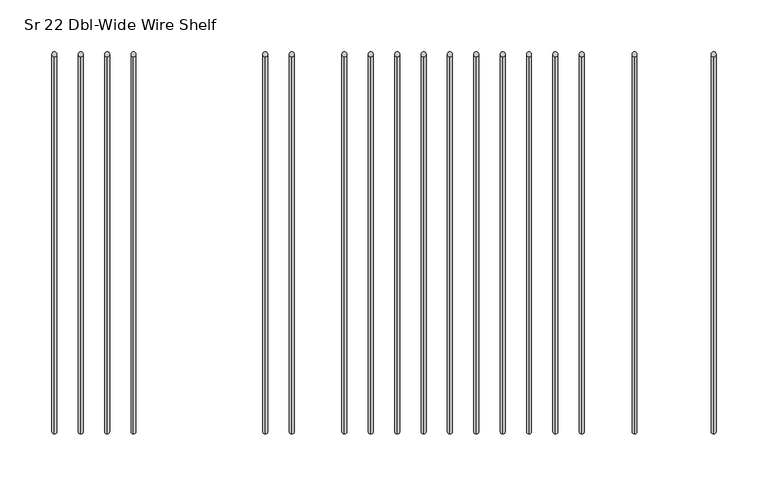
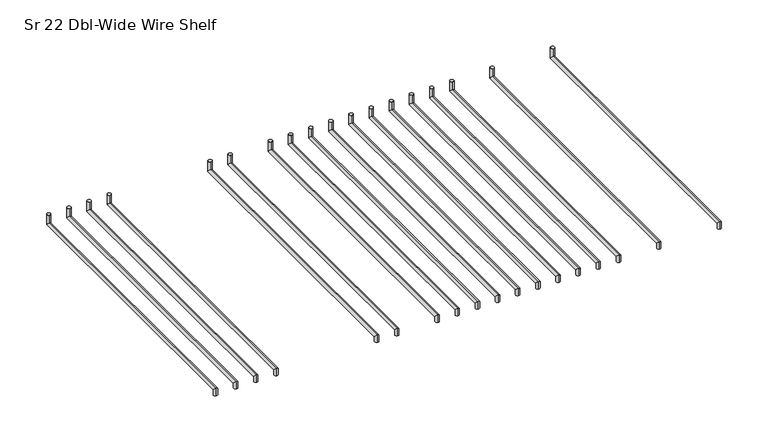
"""IFC4 building model written with IfcOpenShell, lengths in millimetres: furniture geometry, HermanMiller_Carts_CT521_CartShelf : Sr 22 Dbl-Wide Wire Shelf."""

from ifc_helpers import new_model, si_unit, frame, origin, place, context, project, spatial, circle_curve, ellipse_curve, source, transform, mapped, element, save
from ifc_brep_helpers import plane_surface, cylinder_surface, advanced_brep


def sr_22_dbl_wide_wire_shelf_7f391bb4(model_context):
    return source(origin(), model_context, "Body", "AdvancedBrep", [
        advanced_brep(
        [(358.5223083, -206.38135, 2148.4971), (358.5223083, -211.14385, 2148.4971), (358.5223083, -206.38135, 2153.2596), (358.5223083, -211.14385, 2158.0221), (358.5223083, 157.2983379, 2153.2596), (358.5223083, 152.5358379, 2158.0221), (358.5223083, 157.2983379, 2168.5377), (358.5223083, 152.5358379, 2168.5377)],
        [
            (0, 1, circle_curve(frame((358.5223083, -208.7626, 2148.4971), z_axis=(0.0, 0.0, -1.0), x_axis=(0.0, -1.0, 0.0)), 2.38125)),
            (1, 0, circle_curve(frame((358.5223083, -208.7626, 2148.4971), z_axis=(0.0, 0.0, -1.0), x_axis=(0.0, -1.0, 0.0)), 2.38125)),
            (0, 2),
            (2, 3, ellipse_curve(frame((358.5223083, -208.7626, 2155.64085), z_axis=(0.0, -0.7071067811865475, -0.7071067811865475), x_axis=(0.0, 0.7071067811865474, -0.7071067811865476)), 3.367596, 2.38125)),
            (3, 1),
            (3, 2, ellipse_curve(frame((358.5223083, -208.7626, 2155.64085), z_axis=(0.0, -0.7071067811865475, -0.7071067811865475), x_axis=(0.0, 0.7071067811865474, -0.7071067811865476)), 3.367596, 2.38125)),
            (2, 4),
            (4, 5, ellipse_curve(frame((358.5223083, 154.9170879, 2155.64085), z_axis=(0.0, -0.7071067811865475, -0.7071067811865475), x_axis=(0.0, -0.7071067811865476, 0.7071067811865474)), 3.367596, 2.38125)),
            (5, 3),
            (5, 4, ellipse_curve(frame((358.5223083, 154.9170879, 2155.64085), z_axis=(0.0, -0.7071067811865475, -0.7071067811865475), x_axis=(0.0, -0.7071067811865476, 0.7071067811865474)), 3.367596, 2.38125)),
            (6, 7, circle_curve(frame((358.5223083, 154.9170879, 2168.5377), z_axis=(0.0, 0.0, 1.0), x_axis=(0.0, -1.0, 0.0)), 2.38125)),
            (7, 6, circle_curve(frame((358.5223083, 154.9170879, 2168.5377), z_axis=(0.0, 0.0, 1.0), x_axis=(0.0, -1.0, 0.0)), 2.38125)),
            (4, 6),
            (7, 5),
        ],
        [
            plane_surface(frame((358.5223083, -208.7626, 2148.4971), z_axis=(0.0, 0.0, -1.0), x_axis=(1.0, 0.0, 0.0))),
            cylinder_surface(frame((358.5223083, -208.7626, 2148.4971), z_axis=(0.0, 0.0, -1.0), x_axis=(0.0, -1.0, 0.0)), 2.38125),
            cylinder_surface(frame((358.5223083, -208.7626, 2155.64085), z_axis=(0.0, -1.0, 0.0), x_axis=(0.0, 0.0, 1.0)), 2.38125),
            plane_surface(frame((358.5223083, 154.9170879, 2168.5377), z_axis=(0.0, 0.0, 1.0), x_axis=(1.0, 0.0, 0.0))),
            cylinder_surface(frame((358.5223083, 154.9170879, 2155.64085), z_axis=(0.0, 0.0, -1.0), x_axis=(0.0, -1.0, 0.0)), 2.38125),
        ],
        [
            (0, [[1, 2]]),
            (1, [[-1, 3, 4, 5]]),
            (1, [[-2, -5, 6, -3]]),
            (2, [[-4, 7, 8, 9]]),
            (2, [[-6, -9, 10, -7]]),
            (3, [[11, 12]]),
            (4, [[-8, 13, -12, 14]]),
            (4, [[-10, -14, -11, -13]]),
        ],
    ),
        advanced_brep(
        [(282.3223083, -206.38135, 2148.4971), (282.3223083, -211.14385, 2148.4971), (282.3223083, -206.38135, 2153.2596), (282.3223083, -211.14385, 2158.0221), (282.3223083, 157.2983379, 2153.2596), (282.3223083, 152.5358379, 2158.0221), (282.3223083, 157.2983379, 2168.5377), (282.3223083, 152.5358379, 2168.5377)],
        [
            (0, 1, circle_curve(frame((282.3223083, -208.7626, 2148.4971), z_axis=(0.0, 0.0, -1.0), x_axis=(0.0, -1.0, 0.0)), 2.38125)),
            (1, 0, circle_curve(frame((282.3223083, -208.7626, 2148.4971), z_axis=(0.0, 0.0, -1.0), x_axis=(0.0, -1.0, 0.0)), 2.38125)),
            (0, 2),
            (2, 3, ellipse_curve(frame((282.3223083, -208.7626, 2155.64085), z_axis=(0.0, -0.7071067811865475, -0.7071067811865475), x_axis=(0.0, 0.7071067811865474, -0.7071067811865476)), 3.367596, 2.38125)),
            (3, 1),
            (3, 2, ellipse_curve(frame((282.3223083, -208.7626, 2155.64085), z_axis=(0.0, -0.7071067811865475, -0.7071067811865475), x_axis=(0.0, 0.7071067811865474, -0.7071067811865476)), 3.367596, 2.38125)),
            (2, 4),
            (4, 5, ellipse_curve(frame((282.3223083, 154.9170879, 2155.64085), z_axis=(0.0, -0.7071067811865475, -0.7071067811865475), x_axis=(0.0, -0.7071067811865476, 0.7071067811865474)), 3.367596, 2.38125)),
            (5, 3),
            (5, 4, ellipse_curve(frame((282.3223083, 154.9170879, 2155.64085), z_axis=(0.0, -0.7071067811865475, -0.7071067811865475), x_axis=(0.0, -0.7071067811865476, 0.7071067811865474)), 3.367596, 2.38125)),
            (6, 7, circle_curve(frame((282.3223083, 154.9170879, 2168.5377), z_axis=(0.0, 0.0, 1.0), x_axis=(0.0, -1.0, 0.0)), 2.38125)),
            (7, 6, circle_curve(frame((282.3223083, 154.9170879, 2168.5377), z_axis=(0.0, 0.0, 1.0), x_axis=(0.0, -1.0, 0.0)), 2.38125)),
            (4, 6),
            (7, 5),
        ],
        [
            plane_surface(frame((282.3223083, -208.7626, 2148.4971), z_axis=(0.0, 0.0, -1.0), x_axis=(1.0, 0.0, 0.0))),
            cylinder_surface(frame((282.3223083, -208.7626, 2148.4971), z_axis=(0.0, 0.0, -1.0), x_axis=(0.0, -1.0, 0.0)), 2.38125),
            cylinder_surface(frame((282.3223083, -208.7626, 2155.64085), z_axis=(0.0, -1.0, 0.0), x_axis=(0.0, 0.0, 1.0)), 2.38125),
            plane_surface(frame((282.3223083, 154.9170879, 2168.5377), z_axis=(0.0, 0.0, 1.0), x_axis=(1.0, 0.0, 0.0))),
            cylinder_surface(frame((282.3223083, 154.9170879, 2155.64085), z_axis=(0.0, 0.0, -1.0), x_axis=(0.0, -1.0, 0.0)), 2.38125),
        ],
        [
            (0, [[1, 2]]),
            (1, [[-1, 3, 4, 5]]),
            (1, [[-2, -5, 6, -3]]),
            (2, [[-4, 7, 8, 9]]),
            (2, [[-6, -9, 10, -7]]),
            (3, [[11, 12]]),
            (4, [[-8, 13, -12, 14]]),
            (4, [[-10, -14, -11, -13]]),
        ],
    ),
        advanced_brep(
        [(28.3223083, -206.38135, 2148.4971), (28.3223083, -211.14385, 2148.4971), (28.3223083, -206.38135, 2153.2596), (28.3223083, -211.14385, 2158.0221), (28.3223083, 157.2983379, 2153.2596), (28.3223083, 152.5358379, 2158.0221), (28.3223083, 157.2983379, 2168.5377), (28.3223083, 152.5358379, 2168.5377)],
        [
            (0, 1, circle_curve(frame((28.3223083, -208.7626, 2148.4971), z_axis=(0.0, 0.0, -1.0), x_axis=(0.0, -1.0, 0.0)), 2.38125)),
            (1, 0, circle_curve(frame((28.3223083, -208.7626, 2148.4971), z_axis=(0.0, 0.0, -1.0), x_axis=(0.0, -1.0, 0.0)), 2.38125)),
            (0, 2),
            (2, 3, ellipse_curve(frame((28.3223083, -208.7626, 2155.64085), z_axis=(0.0, -0.7071067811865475, -0.7071067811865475), x_axis=(0.0, 0.7071067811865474, -0.7071067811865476)), 3.367596, 2.38125)),
            (3, 1),
            (3, 2, ellipse_curve(frame((28.3223083, -208.7626, 2155.64085), z_axis=(0.0, -0.7071067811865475, -0.7071067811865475), x_axis=(0.0, 0.7071067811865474, -0.7071067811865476)), 3.367596, 2.38125)),
            (2, 4),
            (4, 5, ellipse_curve(frame((28.3223083, 154.9170879, 2155.64085), z_axis=(0.0, -0.7071067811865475, -0.7071067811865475), x_axis=(0.0, -0.7071067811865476, 0.7071067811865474)), 3.367596, 2.38125)),
            (5, 3),
            (5, 4, ellipse_curve(frame((28.3223083, 154.9170879, 2155.64085), z_axis=(0.0, -0.7071067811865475, -0.7071067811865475), x_axis=(0.0, -0.7071067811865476, 0.7071067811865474)), 3.367596, 2.38125)),
            (6, 7, circle_curve(frame((28.3223083, 154.9170879, 2168.5377), z_axis=(0.0, 0.0, 1.0), x_axis=(0.0, -1.0, 0.0)), 2.38125)),
            (7, 6, circle_curve(frame((28.3223083, 154.9170879, 2168.5377), z_axis=(0.0, 0.0, 1.0), x_axis=(0.0, -1.0, 0.0)), 2.38125)),
            (4, 6),
            (7, 5),
        ],
        [
            plane_surface(frame((28.3223083, -208.7626, 2148.4971), z_axis=(0.0, 0.0, -1.0), x_axis=(1.0, 0.0, 0.0))),
            cylinder_surface(frame((28.3223083, -208.7626, 2148.4971), z_axis=(0.0, 0.0, -1.0), x_axis=(0.0, -1.0, 0.0)), 2.38125),
            cylinder_surface(frame((28.3223083, -208.7626, 2155.64085), z_axis=(0.0, -1.0, 0.0), x_axis=(0.0, 0.0, 1.0)), 2.38125),
            plane_surface(frame((28.3223083, 154.9170879, 2168.5377), z_axis=(0.0, 0.0, 1.0), x_axis=(1.0, 0.0, 0.0))),
            cylinder_surface(frame((28.3223083, 154.9170879, 2155.64085), z_axis=(0.0, 0.0, -1.0), x_axis=(0.0, -1.0, 0.0)), 2.38125),
        ],
        [
            (0, [[1, 2]]),
            (1, [[-1, 3, 4, 5]]),
            (1, [[-2, -5, 6, -3]]),
            (2, [[-4, 7, 8, 9]]),
            (2, [[-6, -9, 10, -7]]),
            (3, [[11, 12]]),
            (4, [[-8, 13, -12, 14]]),
            (4, [[-10, -14, -11, -13]]),
        ],
    ),
        advanced_brep(
        [(-47.8776917, -206.38135, 2148.4971), (-47.8776917, -211.14385, 2148.4971), (-47.8776917, -206.38135, 2153.2596), (-47.8776917, -211.14385, 2158.0221), (-47.8776917, 157.2983379, 2153.2596), (-47.8776917, 152.5358379, 2158.0221), (-47.8776917, 157.2983379, 2168.5377), (-47.8776917, 152.5358379, 2168.5377)],
        [
            (0, 1, circle_curve(frame((-47.8776917, -208.7626, 2148.4971), z_axis=(0.0, 0.0, -1.0), x_axis=(0.0, -1.0, 0.0)), 2.38125)),
            (1, 0, circle_curve(frame((-47.8776917, -208.7626, 2148.4971), z_axis=(0.0, 0.0, -1.0), x_axis=(0.0, -1.0, 0.0)), 2.38125)),
            (0, 2),
            (2, 3, ellipse_curve(frame((-47.8776917, -208.7626, 2155.64085), z_axis=(0.0, -0.7071067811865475, -0.7071067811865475), x_axis=(0.0, 0.7071067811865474, -0.7071067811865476)), 3.367596, 2.38125)),
            (3, 1),
            (3, 2, ellipse_curve(frame((-47.8776917, -208.7626, 2155.64085), z_axis=(0.0, -0.7071067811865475, -0.7071067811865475), x_axis=(0.0, 0.7071067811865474, -0.7071067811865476)), 3.367596, 2.38125)),
            (2, 4),
            (4, 5, ellipse_curve(frame((-47.8776917, 154.9170879, 2155.64085), z_axis=(0.0, -0.7071067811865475, -0.7071067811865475), x_axis=(0.0, -0.7071067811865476, 0.7071067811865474)), 3.367596, 2.38125)),
            (5, 3),
            (5, 4, ellipse_curve(frame((-47.8776917, 154.9170879, 2155.64085), z_axis=(0.0, -0.7071067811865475, -0.7071067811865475), x_axis=(0.0, -0.7071067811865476, 0.7071067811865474)), 3.367596, 2.38125)),
            (6, 7, circle_curve(frame((-47.8776917, 154.9170879, 2168.5377), z_axis=(0.0, 0.0, 1.0), x_axis=(0.0, -1.0, 0.0)), 2.38125)),
            (7, 6, circle_curve(frame((-47.8776917, 154.9170879, 2168.5377), z_axis=(0.0, 0.0, 1.0), x_axis=(0.0, -1.0, 0.0)), 2.38125)),
            (4, 6),
            (7, 5),
        ],
        [
            plane_surface(frame((-47.8776917, -208.7626, 2148.4971), z_axis=(0.0, 0.0, -1.0), x_axis=(1.0, 0.0, 0.0))),
            cylinder_surface(frame((-47.8776917, -208.7626, 2148.4971), z_axis=(0.0, 0.0, -1.0), x_axis=(0.0, -1.0, 0.0)), 2.38125),
            cylinder_surface(frame((-47.8776917, -208.7626, 2155.64085), z_axis=(0.0, -1.0, 0.0), x_axis=(0.0, 0.0, 1.0)), 2.38125),
            plane_surface(frame((-47.8776917, 154.9170879, 2168.5377), z_axis=(0.0, 0.0, 1.0), x_axis=(1.0, 0.0, 0.0))),
            cylinder_surface(frame((-47.8776917, 154.9170879, 2155.64085), z_axis=(0.0, 0.0, -1.0), x_axis=(0.0, -1.0, 0.0)), 2.38125),
        ],
        [
            (0, [[1, 2]]),
            (1, [[-1, 3, 4, 5]]),
            (1, [[-2, -5, 6, -3]]),
            (2, [[-4, 7, 8, 9]]),
            (2, [[-6, -9, 10, -7]]),
            (3, [[11, 12]]),
            (4, [[-8, 13, -12, 14]]),
            (4, [[-10, -14, -11, -13]]),
        ],
    ),
        advanced_brep(
        [(-73.2776917, -206.38135, 2148.4971), (-73.2776917, -211.14385, 2148.4971), (-73.2776917, -206.38135, 2153.2596), (-73.2776917, -211.14385, 2158.0221), (-73.2776917, 157.2983379, 2153.2596), (-73.2776917, 152.5358379, 2158.0221), (-73.2776917, 157.2983379, 2168.5377), (-73.2776917, 152.5358379, 2168.5377)],
        [
            (0, 1, circle_curve(frame((-73.2776917, -208.7626, 2148.4971), z_axis=(0.0, 0.0, -1.0), x_axis=(0.0, -1.0, 0.0)), 2.38125)),
            (1, 0, circle_curve(frame((-73.2776917, -208.7626, 2148.4971), z_axis=(0.0, 0.0, -1.0), x_axis=(0.0, -1.0, 0.0)), 2.38125)),
            (0, 2),
            (2, 3, ellipse_curve(frame((-73.2776917, -208.7626, 2155.64085), z_axis=(0.0, -0.7071067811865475, -0.7071067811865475), x_axis=(0.0, 0.7071067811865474, -0.7071067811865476)), 3.367596, 2.38125)),
            (3, 1),
            (3, 2, ellipse_curve(frame((-73.2776917, -208.7626, 2155.64085), z_axis=(0.0, -0.7071067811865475, -0.7071067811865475), x_axis=(0.0, 0.7071067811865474, -0.7071067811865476)), 3.367596, 2.38125)),
            (2, 4),
            (4, 5, ellipse_curve(frame((-73.2776917, 154.9170879, 2155.64085), z_axis=(0.0, -0.7071067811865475, -0.7071067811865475), x_axis=(0.0, -0.7071067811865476, 0.7071067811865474)), 3.367596, 2.38125)),
            (5, 3),
            (5, 4, ellipse_curve(frame((-73.2776917, 154.9170879, 2155.64085), z_axis=(0.0, -0.7071067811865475, -0.7071067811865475), x_axis=(0.0, -0.7071067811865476, 0.7071067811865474)), 3.367596, 2.38125)),
            (6, 7, circle_curve(frame((-73.2776917, 154.9170879, 2168.5377), z_axis=(0.0, 0.0, 1.0), x_axis=(0.0, -1.0, 0.0)), 2.38125)),
            (7, 6, circle_curve(frame((-73.2776917, 154.9170879, 2168.5377), z_axis=(0.0, 0.0, 1.0), x_axis=(0.0, -1.0, 0.0)), 2.38125)),
            (4, 6),
            (7, 5),
        ],
        [
            plane_surface(frame((-73.2776917, -208.7626, 2148.4971), z_axis=(0.0, 0.0, -1.0), x_axis=(1.0, 0.0, 0.0))),
            cylinder_surface(frame((-73.2776917, -208.7626, 2148.4971), z_axis=(0.0, 0.0, -1.0), x_axis=(0.0, -1.0, 0.0)), 2.38125),
            cylinder_surface(frame((-73.2776917, -208.7626, 2155.64085), z_axis=(0.0, -1.0, 0.0), x_axis=(0.0, 0.0, 1.0)), 2.38125),
            plane_surface(frame((-73.2776917, 154.9170879, 2168.5377), z_axis=(0.0, 0.0, 1.0), x_axis=(1.0, 0.0, 0.0))),
            cylinder_surface(frame((-73.2776917, 154.9170879, 2155.64085), z_axis=(0.0, 0.0, -1.0), x_axis=(0.0, -1.0, 0.0)), 2.38125),
        ],
        [
            (0, [[1, 2]]),
            (1, [[-1, 3, 4, 5]]),
            (1, [[-2, -5, 6, -3]]),
            (2, [[-4, 7, 8, 9]]),
            (2, [[-6, -9, 10, -7]]),
            (3, [[11, 12]]),
            (4, [[-8, 13, -12, 14]]),
            (4, [[-10, -14, -11, -13]]),
        ],
    ),
        advanced_brep(
        [(2.9223083, -206.38135, 2148.4971), (2.9223083, -211.14385, 2148.4971), (2.9223083, -206.38135, 2153.2596), (2.9223083, -211.14385, 2158.0221), (2.9223083, 157.2983379, 2153.2596), (2.9223083, 152.5358379, 2158.0221), (2.9223083, 157.2983379, 2168.5377), (2.9223083, 152.5358379, 2168.5377)],
        [
            (0, 1, circle_curve(frame((2.9223083, -208.7626, 2148.4971), z_axis=(0.0, 0.0, -1.0), x_axis=(0.0, -1.0, 0.0)), 2.38125)),
            (1, 0, circle_curve(frame((2.9223083, -208.7626, 2148.4971), z_axis=(0.0, 0.0, -1.0), x_axis=(0.0, -1.0, 0.0)), 2.38125)),
            (0, 2),
            (2, 3, ellipse_curve(frame((2.9223083, -208.7626, 2155.64085), z_axis=(0.0, -0.7071067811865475, -0.7071067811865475), x_axis=(0.0, 0.7071067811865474, -0.7071067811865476)), 3.367596, 2.38125)),
            (3, 1),
            (3, 2, ellipse_curve(frame((2.9223083, -208.7626, 2155.64085), z_axis=(0.0, -0.7071067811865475, -0.7071067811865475), x_axis=(0.0, 0.7071067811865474, -0.7071067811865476)), 3.367596, 2.38125)),
            (2, 4),
            (4, 5, ellipse_curve(frame((2.9223083, 154.9170879, 2155.64085), z_axis=(0.0, -0.7071067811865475, -0.7071067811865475), x_axis=(0.0, -0.7071067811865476, 0.7071067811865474)), 3.367596, 2.38125)),
            (5, 3),
            (5, 4, ellipse_curve(frame((2.9223083, 154.9170879, 2155.64085), z_axis=(0.0, -0.7071067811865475, -0.7071067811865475), x_axis=(0.0, -0.7071067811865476, 0.7071067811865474)), 3.367596, 2.38125)),
            (6, 7, circle_curve(frame((2.9223083, 154.9170879, 2168.5377), z_axis=(0.0, 0.0, 1.0), x_axis=(0.0, -1.0, 0.0)), 2.38125)),
            (7, 6, circle_curve(frame((2.9223083, 154.9170879, 2168.5377), z_axis=(0.0, 0.0, 1.0), x_axis=(0.0, -1.0, 0.0)), 2.38125)),
            (4, 6),
            (7, 5),
        ],
        [
            plane_surface(frame((2.9223083, -208.7626, 2148.4971), z_axis=(0.0, 0.0, -1.0), x_axis=(1.0, 0.0, 0.0))),
            cylinder_surface(frame((2.9223083, -208.7626, 2148.4971), z_axis=(0.0, 0.0, -1.0), x_axis=(0.0, -1.0, 0.0)), 2.38125),
            cylinder_surface(frame((2.9223083, -208.7626, 2155.64085), z_axis=(0.0, -1.0, 0.0), x_axis=(0.0, 0.0, 1.0)), 2.38125),
            plane_surface(frame((2.9223083, 154.9170879, 2168.5377), z_axis=(0.0, 0.0, 1.0), x_axis=(1.0, 0.0, 0.0))),
            cylinder_surface(frame((2.9223083, 154.9170879, 2155.64085), z_axis=(0.0, 0.0, -1.0), x_axis=(0.0, -1.0, 0.0)), 2.38125),
        ],
        [
            (0, [[1, 2]]),
            (1, [[-1, 3, 4, 5]]),
            (1, [[-2, -5, 6, -3]]),
            (2, [[-4, 7, 8, 9]]),
            (2, [[-6, -9, 10, -7]]),
            (3, [[11, 12]]),
            (4, [[-8, 13, -12, 14]]),
            (4, [[-10, -14, -11, -13]]),
        ],
    ),
        advanced_brep(
        [(53.7223083, -206.38135, 2148.4971), (53.7223083, -211.14385, 2148.4971), (53.7223083, -206.38135, 2153.2596), (53.7223083, -211.14385, 2158.0221), (53.7223083, 157.2983379, 2153.2596), (53.7223083, 152.5358379, 2158.0221), (53.7223083, 157.2983379, 2168.5377), (53.7223083, 152.5358379, 2168.5377)],
        [
            (0, 1, circle_curve(frame((53.7223083, -208.7626, 2148.4971), z_axis=(0.0, 0.0, -1.0), x_axis=(0.0, -1.0, 0.0)), 2.38125)),
            (1, 0, circle_curve(frame((53.7223083, -208.7626, 2148.4971), z_axis=(0.0, 0.0, -1.0), x_axis=(0.0, -1.0, 0.0)), 2.38125)),
            (0, 2),
            (2, 3, ellipse_curve(frame((53.7223083, -208.7626, 2155.64085), z_axis=(0.0, -0.7071067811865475, -0.7071067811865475), x_axis=(0.0, 0.7071067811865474, -0.7071067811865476)), 3.367596, 2.38125)),
            (3, 1),
            (3, 2, ellipse_curve(frame((53.7223083, -208.7626, 2155.64085), z_axis=(0.0, -0.7071067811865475, -0.7071067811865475), x_axis=(0.0, 0.7071067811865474, -0.7071067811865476)), 3.367596, 2.38125)),
            (2, 4),
            (4, 5, ellipse_curve(frame((53.7223083, 154.9170879, 2155.64085), z_axis=(0.0, -0.7071067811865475, -0.7071067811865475), x_axis=(0.0, -0.7071067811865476, 0.7071067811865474)), 3.367596, 2.38125)),
            (5, 3),
            (5, 4, ellipse_curve(frame((53.7223083, 154.9170879, 2155.64085), z_axis=(0.0, -0.7071067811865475, -0.7071067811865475), x_axis=(0.0, -0.7071067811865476, 0.7071067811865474)), 3.367596, 2.38125)),
            (6, 7, circle_curve(frame((53.7223083, 154.9170879, 2168.5377), z_axis=(0.0, 0.0, 1.0), x_axis=(0.0, -1.0, 0.0)), 2.38125)),
            (7, 6, circle_curve(frame((53.7223083, 154.9170879, 2168.5377), z_axis=(0.0, 0.0, 1.0), x_axis=(0.0, -1.0, 0.0)), 2.38125)),
            (4, 6),
            (7, 5),
        ],
        [
            plane_surface(frame((53.7223083, -208.7626, 2148.4971), z_axis=(0.0, 0.0, -1.0), x_axis=(1.0, 0.0, 0.0))),
            cylinder_surface(frame((53.7223083, -208.7626, 2148.4971), z_axis=(0.0, 0.0, -1.0), x_axis=(0.0, -1.0, 0.0)), 2.38125),
            cylinder_surface(frame((53.7223083, -208.7626, 2155.64085), z_axis=(0.0, -1.0, 0.0), x_axis=(0.0, 0.0, 1.0)), 2.38125),
            plane_surface(frame((53.7223083, 154.9170879, 2168.5377), z_axis=(0.0, 0.0, 1.0), x_axis=(1.0, 0.0, 0.0))),
            cylinder_surface(frame((53.7223083, 154.9170879, 2155.64085), z_axis=(0.0, 0.0, -1.0), x_axis=(0.0, -1.0, 0.0)), 2.38125),
        ],
        [
            (0, [[1, 2]]),
            (1, [[-1, 3, 4, 5]]),
            (1, [[-2, -5, 6, -3]]),
            (2, [[-4, 7, 8, 9]]),
            (2, [[-6, -9, 10, -7]]),
            (3, [[11, 12]]),
            (4, [[-8, 13, -12, 14]]),
            (4, [[-10, -14, -11, -13]]),
        ],
    ),
        advanced_brep(
        [(79.1223083, -206.38135, 2148.4971), (79.1223083, -211.14385, 2148.4971), (79.1223083, -206.38135, 2153.2596), (79.1223083, -211.14385, 2158.0221), (79.1223083, 157.2983379, 2153.2596), (79.1223083, 152.5358379, 2158.0221), (79.1223083, 157.2983379, 2168.5377), (79.1223083, 152.5358379, 2168.5377)],
        [
            (0, 1, circle_curve(frame((79.1223083, -208.7626, 2148.4971), z_axis=(0.0, 0.0, -1.0), x_axis=(0.0, -1.0, 0.0)), 2.38125)),
            (1, 0, circle_curve(frame((79.1223083, -208.7626, 2148.4971), z_axis=(0.0, 0.0, -1.0), x_axis=(0.0, -1.0, 0.0)), 2.38125)),
            (0, 2),
            (2, 3, ellipse_curve(frame((79.1223083, -208.7626, 2155.64085), z_axis=(0.0, -0.7071067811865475, -0.7071067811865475), x_axis=(0.0, 0.7071067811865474, -0.7071067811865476)), 3.367596, 2.38125)),
            (3, 1),
            (3, 2, ellipse_curve(frame((79.1223083, -208.7626, 2155.64085), z_axis=(0.0, -0.7071067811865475, -0.7071067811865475), x_axis=(0.0, 0.7071067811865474, -0.7071067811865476)), 3.367596, 2.38125)),
            (2, 4),
            (4, 5, ellipse_curve(frame((79.1223083, 154.9170879, 2155.64085), z_axis=(0.0, -0.7071067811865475, -0.7071067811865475), x_axis=(0.0, -0.7071067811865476, 0.7071067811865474)), 3.367596, 2.38125)),
            (5, 3),
            (5, 4, ellipse_curve(frame((79.1223083, 154.9170879, 2155.64085), z_axis=(0.0, -0.7071067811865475, -0.7071067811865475), x_axis=(0.0, -0.7071067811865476, 0.7071067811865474)), 3.367596, 2.38125)),
            (6, 7, circle_curve(frame((79.1223083, 154.9170879, 2168.5377), z_axis=(0.0, 0.0, 1.0), x_axis=(0.0, -1.0, 0.0)), 2.38125)),
            (7, 6, circle_curve(frame((79.1223083, 154.9170879, 2168.5377), z_axis=(0.0, 0.0, 1.0), x_axis=(0.0, -1.0, 0.0)), 2.38125)),
            (4, 6),
            (7, 5),
        ],
        [
            plane_surface(frame((79.1223083, -208.7626, 2148.4971), z_axis=(0.0, 0.0, -1.0), x_axis=(1.0, 0.0, 0.0))),
            cylinder_surface(frame((79.1223083, -208.7626, 2148.4971), z_axis=(0.0, 0.0, -1.0), x_axis=(0.0, -1.0, 0.0)), 2.38125),
            cylinder_surface(frame((79.1223083, -208.7626, 2155.64085), z_axis=(0.0, -1.0, 0.0), x_axis=(0.0, 0.0, 1.0)), 2.38125),
            plane_surface(frame((79.1223083, 154.9170879, 2168.5377), z_axis=(0.0, 0.0, 1.0), x_axis=(1.0, 0.0, 0.0))),
            cylinder_surface(frame((79.1223083, 154.9170879, 2155.64085), z_axis=(0.0, 0.0, -1.0), x_axis=(0.0, -1.0, 0.0)), 2.38125),
        ],
        [
            (0, [[1, 2]]),
            (1, [[-1, 3, 4, 5]]),
            (1, [[-2, -5, 6, -3]]),
            (2, [[-4, 7, 8, 9]]),
            (2, [[-6, -9, 10, -7]]),
            (3, [[11, 12]]),
            (4, [[-8, 13, -12, 14]]),
            (4, [[-10, -14, -11, -13]]),
        ],
    ),
        advanced_brep(
        [(104.5223083, -206.38135, 2148.4971), (104.5223083, -211.14385, 2148.4971), (104.5223083, -206.38135, 2153.2596), (104.5223083, -211.14385, 2158.0221), (104.5223083, 157.2983379, 2153.2596), (104.5223083, 152.5358379, 2158.0221), (104.5223083, 157.2983379, 2168.5377), (104.5223083, 152.5358379, 2168.5377)],
        [
            (0, 1, circle_curve(frame((104.5223083, -208.7626, 2148.4971), z_axis=(0.0, 0.0, -1.0), x_axis=(0.0, -1.0, 0.0)), 2.38125)),
            (1, 0, circle_curve(frame((104.5223083, -208.7626, 2148.4971), z_axis=(0.0, 0.0, -1.0), x_axis=(0.0, -1.0, 0.0)), 2.38125)),
            (0, 2),
            (2, 3, ellipse_curve(frame((104.5223083, -208.7626, 2155.64085), z_axis=(0.0, -0.7071067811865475, -0.7071067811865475), x_axis=(0.0, 0.7071067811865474, -0.7071067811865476)), 3.367596, 2.38125)),
            (3, 1),
            (3, 2, ellipse_curve(frame((104.5223083, -208.7626, 2155.64085), z_axis=(0.0, -0.7071067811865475, -0.7071067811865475), x_axis=(0.0, 0.7071067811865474, -0.7071067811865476)), 3.367596, 2.38125)),
            (2, 4),
            (4, 5, ellipse_curve(frame((104.5223083, 154.9170879, 2155.64085), z_axis=(0.0, -0.7071067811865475, -0.7071067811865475), x_axis=(0.0, -0.7071067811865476, 0.7071067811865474)), 3.367596, 2.38125)),
            (5, 3),
            (5, 4, ellipse_curve(frame((104.5223083, 154.9170879, 2155.64085), z_axis=(0.0, -0.7071067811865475, -0.7071067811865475), x_axis=(0.0, -0.7071067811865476, 0.7071067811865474)), 3.367596, 2.38125)),
            (6, 7, circle_curve(frame((104.5223083, 154.9170879, 2168.5377), z_axis=(0.0, 0.0, 1.0), x_axis=(0.0, -1.0, 0.0)), 2.38125)),
            (7, 6, circle_curve(frame((104.5223083, 154.9170879, 2168.5377), z_axis=(0.0, 0.0, 1.0), x_axis=(0.0, -1.0, 0.0)), 2.38125)),
            (4, 6),
            (7, 5),
        ],
        [
            plane_surface(frame((104.5223083, -208.7626, 2148.4971), z_axis=(0.0, 0.0, -1.0), x_axis=(1.0, 0.0, 0.0))),
            cylinder_surface(frame((104.5223083, -208.7626, 2148.4971), z_axis=(0.0, 0.0, -1.0), x_axis=(0.0, -1.0, 0.0)), 2.38125),
            cylinder_surface(frame((104.5223083, -208.7626, 2155.64085), z_axis=(0.0, -1.0, 0.0), x_axis=(0.0, 0.0, 1.0)), 2.38125),
            plane_surface(frame((104.5223083, 154.9170879, 2168.5377), z_axis=(0.0, 0.0, 1.0), x_axis=(1.0, 0.0, 0.0))),
            cylinder_surface(frame((104.5223083, 154.9170879, 2155.64085), z_axis=(0.0, 0.0, -1.0), x_axis=(0.0, -1.0, 0.0)), 2.38125),
        ],
        [
            (0, [[1, 2]]),
            (1, [[-1, 3, 4, 5]]),
            (1, [[-2, -5, 6, -3]]),
            (2, [[-4, 7, 8, 9]]),
            (2, [[-6, -9, 10, -7]]),
            (3, [[11, 12]]),
            (4, [[-8, 13, -12, 14]]),
            (4, [[-10, -14, -11, -13]]),
        ],
    ),
        advanced_brep(
        [(129.9223083, -206.38135, 2148.4971), (129.9223083, -211.14385, 2148.4971), (129.9223083, -206.38135, 2153.2596), (129.9223083, -211.14385, 2158.0221), (129.9223083, 157.2983379, 2153.2596), (129.9223083, 152.5358379, 2158.0221), (129.9223083, 157.2983379, 2168.5377), (129.9223083, 152.5358379, 2168.5377)],
        [
            (0, 1, circle_curve(frame((129.9223083, -208.7626, 2148.4971), z_axis=(0.0, 0.0, -1.0), x_axis=(0.0, -1.0, 0.0)), 2.38125)),
            (1, 0, circle_curve(frame((129.9223083, -208.7626, 2148.4971), z_axis=(0.0, 0.0, -1.0), x_axis=(0.0, -1.0, 0.0)), 2.38125)),
            (0, 2),
            (2, 3, ellipse_curve(frame((129.9223083, -208.7626, 2155.64085), z_axis=(0.0, -0.7071067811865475, -0.7071067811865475), x_axis=(0.0, 0.7071067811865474, -0.7071067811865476)), 3.367596, 2.38125)),
            (3, 1),
            (3, 2, ellipse_curve(frame((129.9223083, -208.7626, 2155.64085), z_axis=(0.0, -0.7071067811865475, -0.7071067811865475), x_axis=(0.0, 0.7071067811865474, -0.7071067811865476)), 3.367596, 2.38125)),
            (2, 4),
            (4, 5, ellipse_curve(frame((129.9223083, 154.9170879, 2155.64085), z_axis=(0.0, -0.7071067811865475, -0.7071067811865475), x_axis=(0.0, -0.7071067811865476, 0.7071067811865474)), 3.367596, 2.38125)),
            (5, 3),
            (5, 4, ellipse_curve(frame((129.9223083, 154.9170879, 2155.64085), z_axis=(0.0, -0.7071067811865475, -0.7071067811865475), x_axis=(0.0, -0.7071067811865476, 0.7071067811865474)), 3.367596, 2.38125)),
            (6, 7, circle_curve(frame((129.9223083, 154.9170879, 2168.5377), z_axis=(0.0, 0.0, 1.0), x_axis=(0.0, -1.0, 0.0)), 2.38125)),
            (7, 6, circle_curve(frame((129.9223083, 154.9170879, 2168.5377), z_axis=(0.0, 0.0, 1.0), x_axis=(0.0, -1.0, 0.0)), 2.38125)),
            (4, 6),
            (7, 5),
        ],
        [
            plane_surface(frame((129.9223083, -208.7626, 2148.4971), z_axis=(0.0, 0.0, -1.0), x_axis=(1.0, 0.0, 0.0))),
            cylinder_surface(frame((129.9223083, -208.7626, 2148.4971), z_axis=(0.0, 0.0, -1.0), x_axis=(0.0, -1.0, 0.0)), 2.38125),
            cylinder_surface(frame((129.9223083, -208.7626, 2155.64085), z_axis=(0.0, -1.0, 0.0), x_axis=(0.0, 0.0, 1.0)), 2.38125),
            plane_surface(frame((129.9223083, 154.9170879, 2168.5377), z_axis=(0.0, 0.0, 1.0), x_axis=(1.0, 0.0, 0.0))),
            cylinder_surface(frame((129.9223083, 154.9170879, 2155.64085), z_axis=(0.0, 0.0, -1.0), x_axis=(0.0, -1.0, 0.0)), 2.38125),
        ],
        [
            (0, [[1, 2]]),
            (1, [[-1, 3, 4, 5]]),
            (1, [[-2, -5, 6, -3]]),
            (2, [[-4, 7, 8, 9]]),
            (2, [[-6, -9, 10, -7]]),
            (3, [[11, 12]]),
            (4, [[-8, 13, -12, 14]]),
            (4, [[-10, -14, -11, -13]]),
        ],
    ),
        advanced_brep(
        [(155.3223083, -206.38135, 2148.4971), (155.3223083, -211.14385, 2148.4971), (155.3223083, -206.38135, 2153.2596), (155.3223083, -211.14385, 2158.0221), (155.3223083, 157.2983379, 2153.2596), (155.3223083, 152.5358379, 2158.0221), (155.3223083, 157.2983379, 2168.5377), (155.3223083, 152.5358379, 2168.5377)],
        [
            (0, 1, circle_curve(frame((155.3223083, -208.7626, 2148.4971), z_axis=(0.0, 0.0, -1.0), x_axis=(0.0, -1.0, 0.0)), 2.38125)),
            (1, 0, circle_curve(frame((155.3223083, -208.7626, 2148.4971), z_axis=(0.0, 0.0, -1.0), x_axis=(0.0, -1.0, 0.0)), 2.38125)),
            (0, 2),
            (2, 3, ellipse_curve(frame((155.3223083, -208.7626, 2155.64085), z_axis=(0.0, -0.7071067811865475, -0.7071067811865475), x_axis=(0.0, 0.7071067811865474, -0.7071067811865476)), 3.367596, 2.38125)),
            (3, 1),
            (3, 2, ellipse_curve(frame((155.3223083, -208.7626, 2155.64085), z_axis=(0.0, -0.7071067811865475, -0.7071067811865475), x_axis=(0.0, 0.7071067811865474, -0.7071067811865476)), 3.367596, 2.38125)),
            (2, 4),
            (4, 5, ellipse_curve(frame((155.3223083, 154.9170879, 2155.64085), z_axis=(0.0, -0.7071067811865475, -0.7071067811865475), x_axis=(0.0, -0.7071067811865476, 0.7071067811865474)), 3.367596, 2.38125)),
            (5, 3),
            (5, 4, ellipse_curve(frame((155.3223083, 154.9170879, 2155.64085), z_axis=(0.0, -0.7071067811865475, -0.7071067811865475), x_axis=(0.0, -0.7071067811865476, 0.7071067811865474)), 3.367596, 2.38125)),
            (6, 7, circle_curve(frame((155.3223083, 154.9170879, 2168.5377), z_axis=(0.0, 0.0, 1.0), x_axis=(0.0, -1.0, 0.0)), 2.38125)),
            (7, 6, circle_curve(frame((155.3223083, 154.9170879, 2168.5377), z_axis=(0.0, 0.0, 1.0), x_axis=(0.0, -1.0, 0.0)), 2.38125)),
            (4, 6),
            (7, 5),
        ],
        [
            plane_surface(frame((155.3223083, -208.7626, 2148.4971), z_axis=(0.0, 0.0, -1.0), x_axis=(1.0, 0.0, 0.0))),
            cylinder_surface(frame((155.3223083, -208.7626, 2148.4971), z_axis=(0.0, 0.0, -1.0), x_axis=(0.0, -1.0, 0.0)), 2.38125),
            cylinder_surface(frame((155.3223083, -208.7626, 2155.64085), z_axis=(0.0, -1.0, 0.0), x_axis=(0.0, 0.0, 1.0)), 2.38125),
            plane_surface(frame((155.3223083, 154.9170879, 2168.5377), z_axis=(0.0, 0.0, 1.0), x_axis=(1.0, 0.0, 0.0))),
            cylinder_surface(frame((155.3223083, 154.9170879, 2155.64085), z_axis=(0.0, 0.0, -1.0), x_axis=(0.0, -1.0, 0.0)), 2.38125),
        ],
        [
            (0, [[1, 2]]),
            (1, [[-1, 3, 4, 5]]),
            (1, [[-2, -5, 6, -3]]),
            (2, [[-4, 7, 8, 9]]),
            (2, [[-6, -9, 10, -7]]),
            (3, [[11, 12]]),
            (4, [[-8, 13, -12, 14]]),
            (4, [[-10, -14, -11, -13]]),
        ],
    ),
        advanced_brep(
        [(180.7223083, -206.38135, 2148.4971), (180.7223083, -211.14385, 2148.4971), (180.7223083, -206.38135, 2153.2596), (180.7223083, -211.14385, 2158.0221), (180.7223083, 157.2983379, 2153.2596), (180.7223083, 152.5358379, 2158.0221), (180.7223083, 157.2983379, 2168.5377), (180.7223083, 152.5358379, 2168.5377)],
        [
            (0, 1, circle_curve(frame((180.7223083, -208.7626, 2148.4971), z_axis=(0.0, 0.0, -1.0), x_axis=(0.0, -1.0, 0.0)), 2.38125)),
            (1, 0, circle_curve(frame((180.7223083, -208.7626, 2148.4971), z_axis=(0.0, 0.0, -1.0), x_axis=(0.0, -1.0, 0.0)), 2.38125)),
            (0, 2),
            (2, 3, ellipse_curve(frame((180.7223083, -208.7626, 2155.64085), z_axis=(0.0, -0.7071067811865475, -0.7071067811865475), x_axis=(0.0, 0.7071067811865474, -0.7071067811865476)), 3.367596, 2.38125)),
            (3, 1),
            (3, 2, ellipse_curve(frame((180.7223083, -208.7626, 2155.64085), z_axis=(0.0, -0.7071067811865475, -0.7071067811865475), x_axis=(0.0, 0.7071067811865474, -0.7071067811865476)), 3.367596, 2.38125)),
            (2, 4),
            (4, 5, ellipse_curve(frame((180.7223083, 154.9170879, 2155.64085), z_axis=(0.0, -0.7071067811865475, -0.7071067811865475), x_axis=(0.0, -0.7071067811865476, 0.7071067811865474)), 3.367596, 2.38125)),
            (5, 3),
            (5, 4, ellipse_curve(frame((180.7223083, 154.9170879, 2155.64085), z_axis=(0.0, -0.7071067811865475, -0.7071067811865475), x_axis=(0.0, -0.7071067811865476, 0.7071067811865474)), 3.367596, 2.38125)),
            (6, 7, circle_curve(frame((180.7223083, 154.9170879, 2168.5377), z_axis=(0.0, 0.0, 1.0), x_axis=(0.0, -1.0, 0.0)), 2.38125)),
            (7, 6, circle_curve(frame((180.7223083, 154.9170879, 2168.5377), z_axis=(0.0, 0.0, 1.0), x_axis=(0.0, -1.0, 0.0)), 2.38125)),
            (4, 6),
            (7, 5),
        ],
        [
            plane_surface(frame((180.7223083, -208.7626, 2148.4971), z_axis=(0.0, 0.0, -1.0), x_axis=(1.0, 0.0, 0.0))),
            cylinder_surface(frame((180.7223083, -208.7626, 2148.4971), z_axis=(0.0, 0.0, -1.0), x_axis=(0.0, -1.0, 0.0)), 2.38125),
            cylinder_surface(frame((180.7223083, -208.7626, 2155.64085), z_axis=(0.0, -1.0, 0.0), x_axis=(0.0, 0.0, 1.0)), 2.38125),
            plane_surface(frame((180.7223083, 154.9170879, 2168.5377), z_axis=(0.0, 0.0, 1.0), x_axis=(1.0, 0.0, 0.0))),
            cylinder_surface(frame((180.7223083, 154.9170879, 2155.64085), z_axis=(0.0, 0.0, -1.0), x_axis=(0.0, -1.0, 0.0)), 2.38125),
        ],
        [
            (0, [[1, 2]]),
            (1, [[-1, 3, 4, 5]]),
            (1, [[-2, -5, 6, -3]]),
            (2, [[-4, 7, 8, 9]]),
            (2, [[-6, -9, 10, -7]]),
            (3, [[11, 12]]),
            (4, [[-8, 13, -12, 14]]),
            (4, [[-10, -14, -11, -13]]),
        ],
    ),
        advanced_brep(
        [(206.1223083, -206.38135, 2148.4971), (206.1223083, -211.14385, 2148.4971), (206.1223083, -206.38135, 2153.2596), (206.1223083, -211.14385, 2158.0221), (206.1223083, 157.2983379, 2153.2596), (206.1223083, 152.5358379, 2158.0221), (206.1223083, 157.2983379, 2168.5377), (206.1223083, 152.5358379, 2168.5377)],
        [
            (0, 1, circle_curve(frame((206.1223083, -208.7626, 2148.4971), z_axis=(0.0, 0.0, -1.0), x_axis=(0.0, -1.0, 0.0)), 2.38125)),
            (1, 0, circle_curve(frame((206.1223083, -208.7626, 2148.4971), z_axis=(0.0, 0.0, -1.0), x_axis=(0.0, -1.0, 0.0)), 2.38125)),
            (0, 2),
            (2, 3, ellipse_curve(frame((206.1223083, -208.7626, 2155.64085), z_axis=(0.0, -0.7071067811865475, -0.7071067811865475), x_axis=(0.0, 0.7071067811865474, -0.7071067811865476)), 3.367596, 2.38125)),
            (3, 1),
            (3, 2, ellipse_curve(frame((206.1223083, -208.7626, 2155.64085), z_axis=(0.0, -0.7071067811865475, -0.7071067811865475), x_axis=(0.0, 0.7071067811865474, -0.7071067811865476)), 3.367596, 2.38125)),
            (2, 4),
            (4, 5, ellipse_curve(frame((206.1223083, 154.9170879, 2155.64085), z_axis=(0.0, -0.7071067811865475, -0.7071067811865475), x_axis=(0.0, -0.7071067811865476, 0.7071067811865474)), 3.367596, 2.38125)),
            (5, 3),
            (5, 4, ellipse_curve(frame((206.1223083, 154.9170879, 2155.64085), z_axis=(0.0, -0.7071067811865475, -0.7071067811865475), x_axis=(0.0, -0.7071067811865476, 0.7071067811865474)), 3.367596, 2.38125)),
            (6, 7, circle_curve(frame((206.1223083, 154.9170879, 2168.5377), z_axis=(0.0, 0.0, 1.0), x_axis=(0.0, -1.0, 0.0)), 2.38125)),
            (7, 6, circle_curve(frame((206.1223083, 154.9170879, 2168.5377), z_axis=(0.0, 0.0, 1.0), x_axis=(0.0, -1.0, 0.0)), 2.38125)),
            (4, 6),
            (7, 5),
        ],
        [
            plane_surface(frame((206.1223083, -208.7626, 2148.4971), z_axis=(0.0, 0.0, -1.0), x_axis=(1.0, 0.0, 0.0))),
            cylinder_surface(frame((206.1223083, -208.7626, 2148.4971), z_axis=(0.0, 0.0, -1.0), x_axis=(0.0, -1.0, 0.0)), 2.38125),
            cylinder_surface(frame((206.1223083, -208.7626, 2155.64085), z_axis=(0.0, -1.0, 0.0), x_axis=(0.0, 0.0, 1.0)), 2.38125),
            plane_surface(frame((206.1223083, 154.9170879, 2168.5377), z_axis=(0.0, 0.0, 1.0), x_axis=(1.0, 0.0, 0.0))),
            cylinder_surface(frame((206.1223083, 154.9170879, 2155.64085), z_axis=(0.0, 0.0, -1.0), x_axis=(0.0, -1.0, 0.0)), 2.38125),
        ],
        [
            (0, [[1, 2]]),
            (1, [[-1, 3, 4, 5]]),
            (1, [[-2, -5, 6, -3]]),
            (2, [[-4, 7, 8, 9]]),
            (2, [[-6, -9, 10, -7]]),
            (3, [[11, 12]]),
            (4, [[-8, 13, -12, 14]]),
            (4, [[-10, -14, -11, -13]]),
        ],
    ),
        advanced_brep(
        [(231.5223083, -206.38135, 2148.4971), (231.5223083, -211.14385, 2148.4971), (231.5223083, -206.38135, 2153.2596), (231.5223083, -211.14385, 2158.0221), (231.5223083, 157.2983379, 2153.2596), (231.5223083, 152.5358379, 2158.0221), (231.5223083, 157.2983379, 2168.5377), (231.5223083, 152.5358379, 2168.5377)],
        [
            (0, 1, circle_curve(frame((231.5223083, -208.7626, 2148.4971), z_axis=(0.0, 0.0, -1.0), x_axis=(0.0, -1.0, 0.0)), 2.38125)),
            (1, 0, circle_curve(frame((231.5223083, -208.7626, 2148.4971), z_axis=(0.0, 0.0, -1.0), x_axis=(0.0, -1.0, 0.0)), 2.38125)),
            (0, 2),
            (2, 3, ellipse_curve(frame((231.5223083, -208.7626, 2155.64085), z_axis=(0.0, -0.7071067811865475, -0.7071067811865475), x_axis=(0.0, 0.7071067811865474, -0.7071067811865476)), 3.367596, 2.38125)),
            (3, 1),
            (3, 2, ellipse_curve(frame((231.5223083, -208.7626, 2155.64085), z_axis=(0.0, -0.7071067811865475, -0.7071067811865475), x_axis=(0.0, 0.7071067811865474, -0.7071067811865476)), 3.367596, 2.38125)),
            (2, 4),
            (4, 5, ellipse_curve(frame((231.5223083, 154.9170879, 2155.64085), z_axis=(0.0, -0.7071067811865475, -0.7071067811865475), x_axis=(0.0, -0.7071067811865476, 0.7071067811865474)), 3.367596, 2.38125)),
            (5, 3),
            (5, 4, ellipse_curve(frame((231.5223083, 154.9170879, 2155.64085), z_axis=(0.0, -0.7071067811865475, -0.7071067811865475), x_axis=(0.0, -0.7071067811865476, 0.7071067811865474)), 3.367596, 2.38125)),
            (6, 7, circle_curve(frame((231.5223083, 154.9170879, 2168.5377), z_axis=(0.0, 0.0, 1.0), x_axis=(0.0, -1.0, 0.0)), 2.38125)),
            (7, 6, circle_curve(frame((231.5223083, 154.9170879, 2168.5377), z_axis=(0.0, 0.0, 1.0), x_axis=(0.0, -1.0, 0.0)), 2.38125)),
            (4, 6),
            (7, 5),
        ],
        [
            plane_surface(frame((231.5223083, -208.7626, 2148.4971), z_axis=(0.0, 0.0, -1.0), x_axis=(1.0, 0.0, 0.0))),
            cylinder_surface(frame((231.5223083, -208.7626, 2148.4971), z_axis=(0.0, 0.0, -1.0), x_axis=(0.0, -1.0, 0.0)), 2.38125),
            cylinder_surface(frame((231.5223083, -208.7626, 2155.64085), z_axis=(0.0, -1.0, 0.0), x_axis=(0.0, 0.0, 1.0)), 2.38125),
            plane_surface(frame((231.5223083, 154.9170879, 2168.5377), z_axis=(0.0, 0.0, 1.0), x_axis=(1.0, 0.0, 0.0))),
            cylinder_surface(frame((231.5223083, 154.9170879, 2155.64085), z_axis=(0.0, 0.0, -1.0), x_axis=(0.0, -1.0, 0.0)), 2.38125),
        ],
        [
            (0, [[1, 2]]),
            (1, [[-1, 3, 4, 5]]),
            (1, [[-2, -5, 6, -3]]),
            (2, [[-4, 7, 8, 9]]),
            (2, [[-6, -9, 10, -7]]),
            (3, [[11, 12]]),
            (4, [[-8, 13, -12, 14]]),
            (4, [[-10, -14, -11, -13]]),
        ],
    ),
        advanced_brep(
        [(-225.6776917, -206.38135, 2148.4971), (-225.6776917, -211.14385, 2148.4971), (-225.6776917, -206.38135, 2153.2596), (-225.6776917, -211.14385, 2158.0221), (-225.6776917, 157.2983379, 2153.2596), (-225.6776917, 152.5358379, 2158.0221), (-225.6776917, 157.2983379, 2168.5377), (-225.6776917, 152.5358379, 2168.5377)],
        [
            (0, 1, circle_curve(frame((-225.6776917, -208.7626, 2148.4971), z_axis=(0.0, 0.0, -1.0), x_axis=(0.0, -1.0, 0.0)), 2.38125)),
            (1, 0, circle_curve(frame((-225.6776917, -208.7626, 2148.4971), z_axis=(0.0, 0.0, -1.0), x_axis=(0.0, -1.0, 0.0)), 2.38125)),
            (0, 2),
            (2, 3, ellipse_curve(frame((-225.6776917, -208.7626, 2155.64085), z_axis=(0.0, -0.7071067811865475, -0.7071067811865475), x_axis=(0.0, 0.7071067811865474, -0.7071067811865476)), 3.367596, 2.38125)),
            (3, 1),
            (3, 2, ellipse_curve(frame((-225.6776917, -208.7626, 2155.64085), z_axis=(0.0, -0.7071067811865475, -0.7071067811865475), x_axis=(0.0, 0.7071067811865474, -0.7071067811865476)), 3.367596, 2.38125)),
            (2, 4),
            (4, 5, ellipse_curve(frame((-225.6776917, 154.9170879, 2155.64085), z_axis=(0.0, -0.7071067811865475, -0.7071067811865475), x_axis=(0.0, -0.7071067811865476, 0.7071067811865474)), 3.367596, 2.38125)),
            (5, 3),
            (5, 4, ellipse_curve(frame((-225.6776917, 154.9170879, 2155.64085), z_axis=(0.0, -0.7071067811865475, -0.7071067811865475), x_axis=(0.0, -0.7071067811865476, 0.7071067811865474)), 3.367596, 2.38125)),
            (6, 7, circle_curve(frame((-225.6776917, 154.9170879, 2168.5377), z_axis=(0.0, 0.0, 1.0), x_axis=(0.0, -1.0, 0.0)), 2.38125)),
            (7, 6, circle_curve(frame((-225.6776917, 154.9170879, 2168.5377), z_axis=(0.0, 0.0, 1.0), x_axis=(0.0, -1.0, 0.0)), 2.38125)),
            (4, 6),
            (7, 5),
        ],
        [
            plane_surface(frame((-225.6776917, -208.7626, 2148.4971), z_axis=(0.0, 0.0, -1.0), x_axis=(1.0, 0.0, 0.0))),
            cylinder_surface(frame((-225.6776917, -208.7626, 2148.4971), z_axis=(0.0, 0.0, -1.0), x_axis=(0.0, -1.0, 0.0)), 2.38125),
            cylinder_surface(frame((-225.6776917, -208.7626, 2155.64085), z_axis=(0.0, -1.0, 0.0), x_axis=(0.0, 0.0, 1.0)), 2.38125),
            plane_surface(frame((-225.6776917, 154.9170879, 2168.5377), z_axis=(0.0, 0.0, 1.0), x_axis=(1.0, 0.0, 0.0))),
            cylinder_surface(frame((-225.6776917, 154.9170879, 2155.64085), z_axis=(0.0, 0.0, -1.0), x_axis=(0.0, -1.0, 0.0)), 2.38125),
        ],
        [
            (0, [[1, 2]]),
            (1, [[-1, 3, 4, 5]]),
            (1, [[-2, -5, 6, -3]]),
            (2, [[-4, 7, 8, 9]]),
            (2, [[-6, -9, 10, -7]]),
            (3, [[11, 12]]),
            (4, [[-8, 13, -12, 14]]),
            (4, [[-10, -14, -11, -13]]),
        ],
    ),
        advanced_brep(
        [(-200.2776917, -206.38135, 2148.4971), (-200.2776917, -211.14385, 2148.4971), (-200.2776917, -206.38135, 2153.2596), (-200.2776917, -211.14385, 2158.0221), (-200.2776917, 157.2983379, 2153.2596), (-200.2776917, 152.5358379, 2158.0221), (-200.2776917, 157.2983379, 2168.5377), (-200.2776917, 152.5358379, 2168.5377)],
        [
            (0, 1, circle_curve(frame((-200.2776917, -208.7626, 2148.4971), z_axis=(0.0, 0.0, -1.0), x_axis=(0.0, -1.0, 0.0)), 2.38125)),
            (1, 0, circle_curve(frame((-200.2776917, -208.7626, 2148.4971), z_axis=(0.0, 0.0, -1.0), x_axis=(0.0, -1.0, 0.0)), 2.38125)),
            (0, 2),
            (2, 3, ellipse_curve(frame((-200.2776917, -208.7626, 2155.64085), z_axis=(0.0, -0.7071067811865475, -0.7071067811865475), x_axis=(0.0, 0.7071067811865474, -0.7071067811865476)), 3.367596, 2.38125)),
            (3, 1),
            (3, 2, ellipse_curve(frame((-200.2776917, -208.7626, 2155.64085), z_axis=(0.0, -0.7071067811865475, -0.7071067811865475), x_axis=(0.0, 0.7071067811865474, -0.7071067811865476)), 3.367596, 2.38125)),
            (2, 4),
            (4, 5, ellipse_curve(frame((-200.2776917, 154.9170879, 2155.64085), z_axis=(0.0, -0.7071067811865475, -0.7071067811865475), x_axis=(0.0, -0.7071067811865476, 0.7071067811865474)), 3.367596, 2.38125)),
            (5, 3),
            (5, 4, ellipse_curve(frame((-200.2776917, 154.9170879, 2155.64085), z_axis=(0.0, -0.7071067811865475, -0.7071067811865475), x_axis=(0.0, -0.7071067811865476, 0.7071067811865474)), 3.367596, 2.38125)),
            (6, 7, circle_curve(frame((-200.2776917, 154.9170879, 2168.5377), z_axis=(0.0, 0.0, 1.0), x_axis=(0.0, -1.0, 0.0)), 2.38125)),
            (7, 6, circle_curve(frame((-200.2776917, 154.9170879, 2168.5377), z_axis=(0.0, 0.0, 1.0), x_axis=(0.0, -1.0, 0.0)), 2.38125)),
            (4, 6),
            (7, 5),
        ],
        [
            plane_surface(frame((-200.2776917, -208.7626, 2148.4971), z_axis=(0.0, 0.0, -1.0), x_axis=(1.0, 0.0, 0.0))),
            cylinder_surface(frame((-200.2776917, -208.7626, 2148.4971), z_axis=(0.0, 0.0, -1.0), x_axis=(0.0, -1.0, 0.0)), 2.38125),
            cylinder_surface(frame((-200.2776917, -208.7626, 2155.64085), z_axis=(0.0, -1.0, 0.0), x_axis=(0.0, 0.0, 1.0)), 2.38125),
            plane_surface(frame((-200.2776917, 154.9170879, 2168.5377), z_axis=(0.0, 0.0, 1.0), x_axis=(1.0, 0.0, 0.0))),
            cylinder_surface(frame((-200.2776917, 154.9170879, 2155.64085), z_axis=(0.0, 0.0, -1.0), x_axis=(0.0, -1.0, 0.0)), 2.38125),
        ],
        [
            (0, [[1, 2]]),
            (1, [[-1, 3, 4, 5]]),
            (1, [[-2, -5, 6, -3]]),
            (2, [[-4, 7, 8, 9]]),
            (2, [[-6, -9, 10, -7]]),
            (3, [[11, 12]]),
            (4, [[-8, 13, -12, 14]]),
            (4, [[-10, -14, -11, -13]]),
        ],
    ),
        advanced_brep(
        [(-251.0776917, -206.38135, 2148.4971), (-251.0776917, -211.14385, 2148.4971), (-251.0776917, -206.38135, 2153.2596), (-251.0776917, -211.14385, 2158.0221), (-251.0776917, 157.2983379, 2153.2596), (-251.0776917, 152.5358379, 2158.0221), (-251.0776917, 157.2983379, 2168.5377), (-251.0776917, 152.5358379, 2168.5377)],
        [
            (0, 1, circle_curve(frame((-251.0776917, -208.7626, 2148.4971), z_axis=(0.0, 0.0, -1.0), x_axis=(0.0, -1.0, 0.0)), 2.38125)),
            (1, 0, circle_curve(frame((-251.0776917, -208.7626, 2148.4971), z_axis=(0.0, 0.0, -1.0), x_axis=(0.0, -1.0, 0.0)), 2.38125)),
            (0, 2),
            (2, 3, ellipse_curve(frame((-251.0776917, -208.7626, 2155.64085), z_axis=(0.0, -0.7071067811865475, -0.7071067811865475), x_axis=(0.0, 0.7071067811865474, -0.7071067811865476)), 3.367596, 2.38125)),
            (3, 1),
            (3, 2, ellipse_curve(frame((-251.0776917, -208.7626, 2155.64085), z_axis=(0.0, -0.7071067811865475, -0.7071067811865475), x_axis=(0.0, 0.7071067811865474, -0.7071067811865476)), 3.367596, 2.38125)),
            (2, 4),
            (4, 5, ellipse_curve(frame((-251.0776917, 154.9170879, 2155.64085), z_axis=(0.0, -0.7071067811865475, -0.7071067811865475), x_axis=(0.0, -0.7071067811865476, 0.7071067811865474)), 3.367596, 2.38125)),
            (5, 3),
            (5, 4, ellipse_curve(frame((-251.0776917, 154.9170879, 2155.64085), z_axis=(0.0, -0.7071067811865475, -0.7071067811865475), x_axis=(0.0, -0.7071067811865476, 0.7071067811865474)), 3.367596, 2.38125)),
            (6, 7, circle_curve(frame((-251.0776917, 154.9170879, 2168.5377), z_axis=(0.0, 0.0, 1.0), x_axis=(0.0, -1.0, 0.0)), 2.38125)),
            (7, 6, circle_curve(frame((-251.0776917, 154.9170879, 2168.5377), z_axis=(0.0, 0.0, 1.0), x_axis=(0.0, -1.0, 0.0)), 2.38125)),
            (4, 6),
            (7, 5),
        ],
        [
            plane_surface(frame((-251.0776917, -208.7626, 2148.4971), z_axis=(0.0, 0.0, -1.0), x_axis=(1.0, 0.0, 0.0))),
            cylinder_surface(frame((-251.0776917, -208.7626, 2148.4971), z_axis=(0.0, 0.0, -1.0), x_axis=(0.0, -1.0, 0.0)), 2.38125),
            cylinder_surface(frame((-251.0776917, -208.7626, 2155.64085), z_axis=(0.0, -1.0, 0.0), x_axis=(0.0, 0.0, 1.0)), 2.38125),
            plane_surface(frame((-251.0776917, 154.9170879, 2168.5377), z_axis=(0.0, 0.0, 1.0), x_axis=(1.0, 0.0, 0.0))),
            cylinder_surface(frame((-251.0776917, 154.9170879, 2155.64085), z_axis=(0.0, 0.0, -1.0), x_axis=(0.0, -1.0, 0.0)), 2.38125),
        ],
        [
            (0, [[1, 2]]),
            (1, [[-1, 3, 4, 5]]),
            (1, [[-2, -5, 6, -3]]),
            (2, [[-4, 7, 8, 9]]),
            (2, [[-6, -9, 10, -7]]),
            (3, [[11, 12]]),
            (4, [[-8, 13, -12, 14]]),
            (4, [[-10, -14, -11, -13]]),
        ],
    ),
        advanced_brep(
        [(-276.4776917, -206.38135, 2148.4971), (-276.4776917, -211.14385, 2148.4971), (-276.4776917, -206.38135, 2153.2596), (-276.4776917, -211.14385, 2158.0221), (-276.4776917, 157.2983379, 2153.2596), (-276.4776917, 152.5358379, 2158.0221), (-276.4776917, 157.2983379, 2168.5377), (-276.4776917, 152.5358379, 2168.5377)],
        [
            (0, 1, circle_curve(frame((-276.4776917, -208.7626, 2148.4971), z_axis=(0.0, 0.0, -1.0), x_axis=(0.0, -1.0, 0.0)), 2.38125)),
            (1, 0, circle_curve(frame((-276.4776917, -208.7626, 2148.4971), z_axis=(0.0, 0.0, -1.0), x_axis=(0.0, -1.0, 0.0)), 2.38125)),
            (0, 2),
            (2, 3, ellipse_curve(frame((-276.4776917, -208.7626, 2155.64085), z_axis=(0.0, -0.7071067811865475, -0.7071067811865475), x_axis=(0.0, 0.7071067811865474, -0.7071067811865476)), 3.367596, 2.38125)),
            (3, 1),
            (3, 2, ellipse_curve(frame((-276.4776917, -208.7626, 2155.64085), z_axis=(0.0, -0.7071067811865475, -0.7071067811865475), x_axis=(0.0, 0.7071067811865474, -0.7071067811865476)), 3.367596, 2.38125)),
            (2, 4),
            (4, 5, ellipse_curve(frame((-276.4776917, 154.9170879, 2155.64085), z_axis=(0.0, -0.7071067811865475, -0.7071067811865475), x_axis=(0.0, -0.7071067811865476, 0.7071067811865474)), 3.367596, 2.38125)),
            (5, 3),
            (5, 4, ellipse_curve(frame((-276.4776917, 154.9170879, 2155.64085), z_axis=(0.0, -0.7071067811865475, -0.7071067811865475), x_axis=(0.0, -0.7071067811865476, 0.7071067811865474)), 3.367596, 2.38125)),
            (6, 7, circle_curve(frame((-276.4776917, 154.9170879, 2168.5377), z_axis=(0.0, 0.0, 1.0), x_axis=(0.0, -1.0, 0.0)), 2.38125)),
            (7, 6, circle_curve(frame((-276.4776917, 154.9170879, 2168.5377), z_axis=(0.0, 0.0, 1.0), x_axis=(0.0, -1.0, 0.0)), 2.38125)),
            (4, 6),
            (7, 5),
        ],
        [
            plane_surface(frame((-276.4776917, -208.7626, 2148.4971), z_axis=(0.0, 0.0, -1.0), x_axis=(1.0, 0.0, 0.0))),
            cylinder_surface(frame((-276.4776917, -208.7626, 2148.4971), z_axis=(0.0, 0.0, -1.0), x_axis=(0.0, -1.0, 0.0)), 2.38125),
            cylinder_surface(frame((-276.4776917, -208.7626, 2155.64085), z_axis=(0.0, -1.0, 0.0), x_axis=(0.0, 0.0, 1.0)), 2.38125),
            plane_surface(frame((-276.4776917, 154.9170879, 2168.5377), z_axis=(0.0, 0.0, 1.0), x_axis=(1.0, 0.0, 0.0))),
            cylinder_surface(frame((-276.4776917, 154.9170879, 2155.64085), z_axis=(0.0, 0.0, -1.0), x_axis=(0.0, -1.0, 0.0)), 2.38125),
        ],
        [
            (0, [[1, 2]]),
            (1, [[-1, 3, 4, 5]]),
            (1, [[-2, -5, 6, -3]]),
            (2, [[-4, 7, 8, 9]]),
            (2, [[-6, -9, 10, -7]]),
            (3, [[11, 12]]),
            (4, [[-8, 13, -12, 14]]),
            (4, [[-10, -14, -11, -13]]),
        ],
    ),
    ])


if __name__ == "__main__":
    model = new_model("IFC4")
    model_context = context("Model", 3, world=origin())
    ifc_project = project(units=[si_unit("LENGTHUNIT", "METRE", prefix="MILLI")], contexts=[model_context])
    site = spatial("IfcSite", under=ifc_project)
    building = spatial("IfcBuilding", under=site)
    placement = place(None, origin())
    sr_22_dbl_wide_wire_shelf_shape = sr_22_dbl_wide_wire_shelf_7f391bb4(model_context)
    element("IfcFurniture", 1, ObjectType="HermanMiller_Carts_CT521_CartShelf : Sr 22 Dbl-Wide Wire Shelf", at=placement, inside=building, context=model_context, shape_type="MappedRepresentation", body=[
        mapped(sr_22_dbl_wide_wire_shelf_shape, transform((0.0, 0.0, 0.0), x_axis=(1.0, 0.0, 0.0), y_axis=(0.0, 1.0, 0.0), z_axis=(0.0, 0.0, 1.0))),
    ])
    save(model, "model.ifc")
